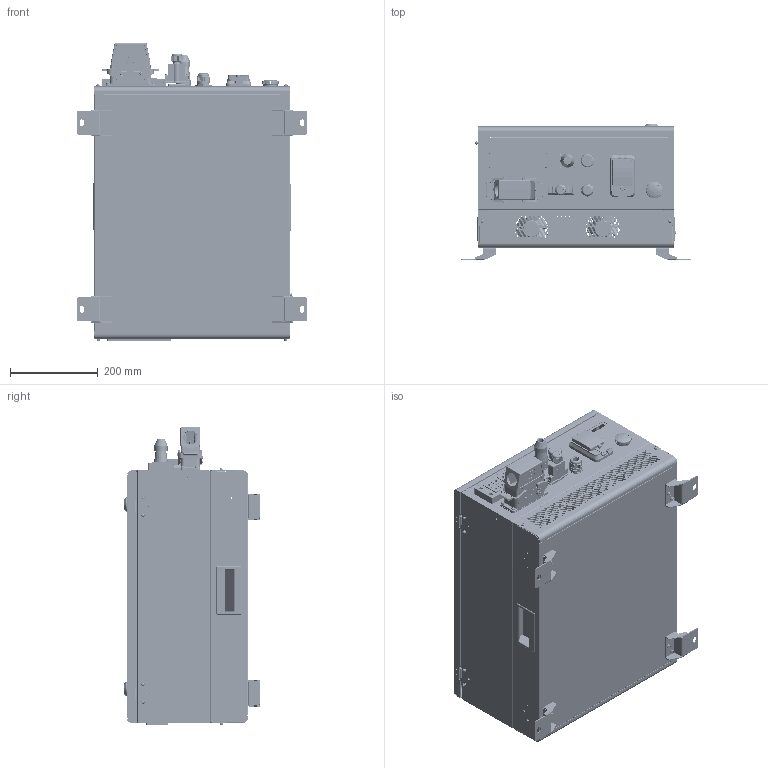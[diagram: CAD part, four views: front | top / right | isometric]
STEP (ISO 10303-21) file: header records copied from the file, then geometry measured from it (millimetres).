
FILE_DESCRIPTION((''),'2;1');
FILE_NAME('000-IRCB500-6ND_ASM_1_ASM_1_1_ASM','2021-11-23T',('l3092'),(''),'CREO PARAMETRIC BY PTC INC, 2015290','CREO PARAMETRIC BY PTC INC, 2015290','');
FILE_SCHEMA(('CONFIG_CONTROL_DESIGN'));
Products named in the file (97): FAN-80X38_1_1_1; 15050129_1_1_1; 27200106_1_1_1; 09320403001_100176386MOD000B__1; 09300160301_100094922MOD000D__1; 19300160527_100094862MOD000C__1; 09300165405_100094778MOD000B__1; 15050344_ASM_1_ASM_1_1_ASM; CHUANQIANGBAN_1_1_1; 21020540_1_1_1; HALTING_1_1_1; 15160249_ASM_1_1_1; CIHUAN_1_ASM_1_1_ASM; 000-IRCB500-6ND-QIJIAN_ASM_1__1_ASM; SIT20192401_1_1_1; HC-S-M4-ZC-R0_1_1_1; HC-S-M5-ZC-R0_1_1_1; HC-BSO-M4-12-ZC_1_1_1; SIT20192401_ASM_1_ASM_1_1_ASM; SIT20192402_1_1_1; HC-S-M4-ZC-R0_1_1; HC-TPR-4-16-SL-R0_1_1_1; SIT20192402_ASM_1_ASM_1_1_ASM; GB12617-90_3X6_30-R0_1_1_1; SIT20192400_ASM_1_ASM_1_1_ASM; SIT20192393_1_1_1; HC-B-M3-10-ZC-R0_1_1_1; HC-B-M4-1-ZC-R0_1_1_1; HC-B-M6-20-ZC_1_1_1; HC-BSO-M4-12-ZC-R0_1_1_1; HC-BSO-M4-8-ZC-R0_1_1_1; HC-BSO-3_5M3-20-ZC-R0_1_1_1; HC-TPR-3-16-SL-R0_1_1_1; HC-BSO-M4-20-ZC-R0_1_1_1; HC-BSO-3_5M3-10-ZC-R0_1_1_1; HC-BS-M5-1-R0_1_1_1; SIT20192393_ASM_1_ASM_1_1_ASM; SIT20192398_1_1_1; SIT20192406_ASM_1_ASM_1_1_ASM; SIT20192407_ASM_1_ASM_1_1_ASM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
Assembly tree (272 placements, depth 6):
  000-IRCB500-6ND_ASM_1_ASM_1_1_ASM
    000-IRCB500-6ND-QIJIAN_ASM_1__1_ASM
      FAN-80X38_1_1_1  x2
      15050129_1_1_1
      27200106_1_1_1
      15050344_ASM_1_ASM_1_1_ASM
        09320403001_100176386MOD000B__1
        09300160301_100094922MOD000D__1
        19300160527_100094862MOD000C__1
        09300165405_100094778MOD000B__1
      CHUANQIANGBAN_1_1_1
      21020540_1_1_1
      HALTING_1_1_1
      15160249_ASM_1_1_1
      CIHUAN_1_ASM_1_1_ASM  x2
    000-IRCB500-6ND-MD_ASM_1_ASM__1_ASM
      20191485_ASM_1_ASM_1_1_ASM
        SIT20192400_ASM_1_ASM_1_1_ASM
          SIT20192401_ASM_1_ASM_1_1_ASM
            SIT20192401_1_1_1
            HC-S-M4-ZC-R0_1_1_1  x9
            HC-S-M5-ZC-R0_1_1_1  x18
            HC-BSO-M4-12-ZC_1_1_1
          SIT20192402_ASM_1_ASM_1_1_ASM
            SIT20192402_1_1_1
            HC-S-M4-ZC-R0_1_1  x4
            HC-TPR-4-16-SL-R0_1_1_1  x4
          GB12617-90_3X6_30-R0_1_1_1  x3
        SIT20192392_ASM_1_ASM_1_1_ASM
          SIT20192393_ASM_1_ASM_1_1_ASM
            SIT20192393_1_1_1
            HC-B-M3-10-ZC-R0_1_1_1  x8
            HC-B-M4-1-ZC-R0_1_1_1  x22
            HC-B-M6-20-ZC_1_1_1  x4
            HC-BSO-M4-12-ZC-R0_1_1_1  x19
            HC-BSO-M4-8-ZC-R0_1_1_1  x4
            HC-BSO-3_5M3-20-ZC-R0_1_1_1  x5
            HC-TPR-3-16-SL-R0_1_1_1  x2
            HC-BSO-M4-20-ZC-R0_1_1_1  x2
            HC-BSO-3_5M3-10-ZC-R0_1_1_1  x2
            HC-BS-M5-1-R0_1_1_1  x9
          SIT20192398_1_1_1  x2
          SIT20192406_ASM_1_ASM_1_1_ASM
            HC-S-M4-ZC-R0_1_1  x2
          SIT20192407_ASM_1_ASM_1_1_ASM
            HC-S-M4-ZC-R0_1_1  x2
          SIT20192435_ASM_1_ASM_1_1_ASM
            SIT20192435_1_1_1
            HC-BSO-3_5M3-8-ZC-R0_1_1_1  x2
          SIT20192415_1_1_1  x2
          SIT20192414_1_1_1  x2
          SIT20192417_1_1_1
          SIT20192416_1_1_1  x8
        SIT20192404_ASM_1_ASM_1_1_ASM  x2
          SIT20192404_1_1_1
        SIT20192409_ASM_1_ASM_1_1
        LS537-1_1_1_1  x2
        SIT20192403_ASM_1_ASM_1_1_ASM
          SIT20192403_1_1_1
          SIT20422556_1_1_1
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Bounding box: 525 x 309.5 x 679.26 mm (x, y, z)
Volume: 3042902.9 mm3; surface area: 3525306.6 mm2
Topology: 245 solids, 379 shells, 24296 faces, 67288 edges, 44579 vertices
Faces by surface type: plane 14574, cylinder 5977, cone 1452, extrusion 929, bspline 875, torus 368, sphere 121
Entity records: 546999 total; most frequent: CARTESIAN_POINT 150069, ORIENTED_EDGE 62523, DIRECTION 56130, EDGE_CURVE 32893, PRESENTATION_STYLE_ASSIGNMENT 23691, STYLED_ITEM 22407, VERTEX_POINT 22121, VECTOR 20052
